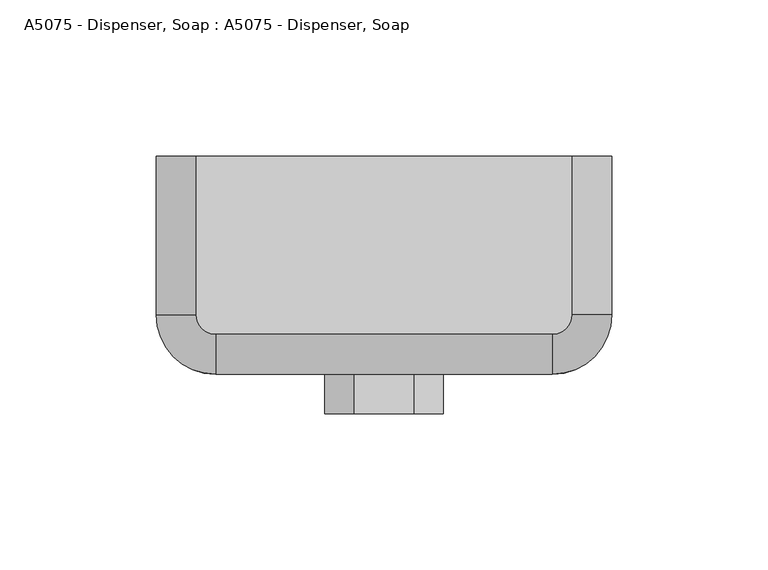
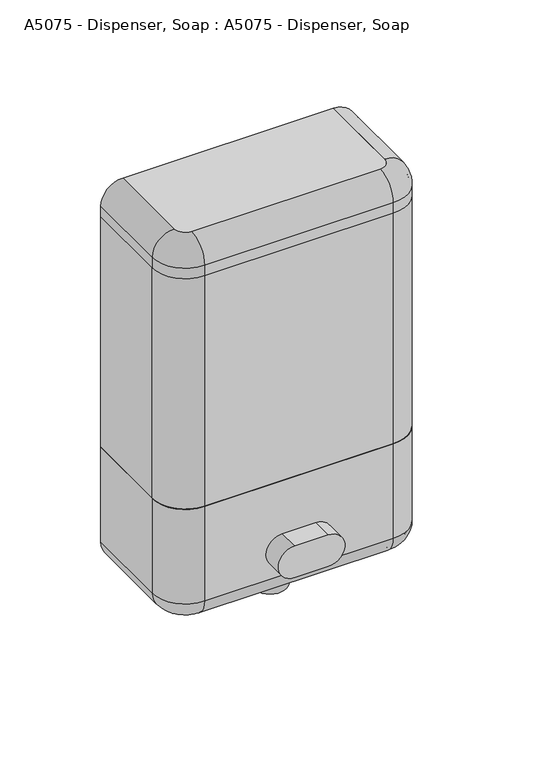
"""IFC4 building model written with IfcOpenShell, lengths in millimetres: proxy geometry, A5075 - Dispenser, Soap : A5075 - Dispenser, Soap."""

from ifc_helpers import new_model, si_unit, point, frame, frame_2d, origin, origin_with_axes, place, context, project, spatial, polyline, circle_curve, ellipse_curve, trimmed, segment, composite_curve, outline, extrude, source, transform, mapped, element, save
from ifc_brep_helpers import plane_surface, cylinder_surface, revolved_surface, advanced_brep


def a5075_dispenser_soap_a5075_dispenser_soap_1799d04c(model_context):
    return source(origin(), model_context, "Body", "SolidModel", [
        advanced_brep(
        [(-73.025, 0.0, 12.7), (-73.025, 0.0, 69.85), (-71.4375, 0.0, 69.85), (-71.4375, 0.0, 12.7), (-60.325, 0.0, 1.5875), (-60.325, 0.0, 0.0), (-73.025, -50.8, 12.7), (-73.025, -50.8, 69.85), (-53.975, -69.85, 69.85), (53.975, -69.85, 69.85), (73.025, -50.8, 69.85), (73.025, 0.0, 69.85), (71.4375, 0.0, 69.85), (71.4375, -50.8, 69.85), (53.975, -68.2625, 69.85), (-53.975, -68.2625, 69.85), (-71.4375, -50.8, 69.85), (-71.4375, -50.8, 12.7), (-60.325, -50.8, 1.5875), (-60.325, -50.8, 0.0), (-53.975, -69.85, 12.7), (-53.975, -68.2625, 12.7), (-53.975, -57.15, 1.5875), (-53.975, -57.15, 0.0), (53.975, -69.85, 12.7), (53.975, -68.2625, 12.7), (53.975, -57.15, 1.5875), (53.975, -57.15, 0.0), (73.025, -50.8, 12.7), (71.4375, -50.8, 12.7), (60.325, -50.8, 1.5875), (60.325, -50.8, 0.0), (73.025, 0.0, 12.7), (60.325, 0.0, 0.0), (60.325, 0.0, 1.5875), (71.4375, 0.0, 12.7)],
        [
            (0, 1),
            (1, 2),
            (2, 3),
            (3, 4, circle_curve(frame((-60.325, 0.0, 12.7), z_axis=(0.0, -1.0, 0.0), x_axis=(1.0, 0.0, 0.0)), 11.1125)),
            (4, 5),
            (5, 0, circle_curve(frame((-60.325, 0.0, 12.7), z_axis=(0.0, 1.0, 0.0), x_axis=(1.0, 0.0, 0.0)), 12.7)),
            (0, 6),
            (6, 7),
            (7, 1),
            (7, 8, circle_curve(frame((-53.975, -50.8, 69.85), z_axis=(0.0, 0.0, 1.0), x_axis=(-1.0, 0.0, 0.0)), 19.05)),
            (8, 9),
            (9, 10, circle_curve(frame((53.975, -50.8, 69.85), z_axis=(0.0, 0.0, 1.0), x_axis=(0.0, -1.0, 0.0)), 19.05)),
            (10, 11),
            (11, 12),
            (12, 13),
            (13, 14, circle_curve(frame((53.975, -50.8, 69.85), z_axis=(0.0, 0.0, -1.0), x_axis=(0.0, -1.0, 0.0)), 17.4625)),
            (14, 15),
            (15, 16, circle_curve(frame((-53.975, -50.8, 69.85), z_axis=(0.0, 0.0, -1.0), x_axis=(-1.0, 0.0, 0.0)), 17.4625)),
            (16, 2),
            (16, 17),
            (17, 3),
            (17, 18, circle_curve(frame((-60.325, -50.8, 12.7), z_axis=(0.0, -1.0, 0.0), x_axis=(1.0, 0.0, 0.0)), 11.1125)),
            (18, 4),
            (18, 19),
            (19, 5),
            (19, 6, circle_curve(frame((-60.325, -50.8, 12.7), z_axis=(0.0, 1.0, 0.0), x_axis=(1.0, 0.0, 0.0)), 12.7)),
            (6, 20, circle_curve(frame((-53.975, -50.8, 12.7), z_axis=(0.0, 0.0, 1.0), x_axis=(-1.0, 0.0, 0.0)), 19.05)),
            (20, 8),
            (21, 17, circle_curve(frame((-53.975, -50.8, 12.7), z_axis=(0.0, 0.0, -1.0), x_axis=(-1.0, 0.0, 0.0)), 17.4625)),
            (15, 21),
            (22, 18, circle_curve(frame((-53.975, -50.8, 1.5875), z_axis=(0.0, 0.0, -1.0), x_axis=(-1.0, 0.0, 0.0)), 6.35)),
            (21, 22, circle_curve(frame((-53.975, -57.15, 12.7), z_axis=(1.0, 0.0, 0.0), x_axis=(0.0, 1.0, 0.0)), 11.1125)),
            (23, 19, circle_curve(frame((-53.975, -50.8, 0.0), z_axis=(0.0, 0.0, -1.0), x_axis=(-1.0, 0.0, 0.0)), 6.35)),
            (22, 23),
            (23, 20, circle_curve(frame((-53.975, -57.15, 12.7), z_axis=(-1.0, 0.0, 0.0), x_axis=(0.0, 1.0, 0.0)), 12.7)),
            (20, 24),
            (24, 9),
            (14, 25),
            (25, 21),
            (25, 26, circle_curve(frame((53.975, -57.15, 12.7), z_axis=(1.0, 0.0, 0.0), x_axis=(0.0, 1.0, 0.0)), 11.1125)),
            (26, 22),
            (26, 27),
            (27, 23),
            (27, 24, circle_curve(frame((53.975, -57.15, 12.7), z_axis=(-1.0, 0.0, 0.0), x_axis=(0.0, 1.0, 0.0)), 12.7)),
            (24, 28, circle_curve(frame((53.975, -50.8, 12.7), z_axis=(0.0, 0.0, 1.0), x_axis=(0.0, -1.0, 0.0)), 19.05)),
            (28, 10),
            (29, 25, circle_curve(frame((53.975, -50.8, 12.7), z_axis=(0.0, 0.0, -1.0), x_axis=(0.0, -1.0, 0.0)), 17.4625)),
            (13, 29),
            (30, 26, circle_curve(frame((53.975, -50.8, 1.5875), z_axis=(0.0, 0.0, -1.0), x_axis=(0.0, -1.0, 0.0)), 6.35)),
            (29, 30, circle_curve(frame((60.325, -50.8, 12.7), z_axis=(0.0, 1.0, 0.0), x_axis=(-1.0, 0.0, 0.0)), 11.1125)),
            (31, 27, circle_curve(frame((53.975, -50.8, 0.0), z_axis=(0.0, 0.0, -1.0), x_axis=(0.0, -1.0, 0.0)), 6.35)),
            (30, 31),
            (31, 28, circle_curve(frame((60.325, -50.8, 12.7), z_axis=(0.0, -1.0, 0.0), x_axis=(-1.0, 0.0, 0.0)), 12.7)),
            (32, 33, circle_curve(frame((60.325, 0.0, 12.7), z_axis=(0.0, 1.0, 0.0), x_axis=(-1.0, 0.0, 0.0)), 12.7)),
            (33, 34),
            (34, 35, circle_curve(frame((60.325, 0.0, 12.7), z_axis=(0.0, -1.0, 0.0), x_axis=(-1.0, 0.0, 0.0)), 11.1125)),
            (35, 12),
            (11, 32),
            (28, 32),
            (35, 29),
            (34, 30),
            (33, 31),
        ],
        [
            plane_surface(frame((-73.025, 0.0, 0.0), z_axis=(0.0, 1.0, 0.0), x_axis=(0.0, 0.0, 1.0))),
            plane_surface(frame((-73.025, 0.0, 12.7), z_axis=(-1.0, 0.0, 0.0), x_axis=(0.0, -1.0, 0.0))),
            plane_surface(frame((-73.025, 0.0, 69.85), z_axis=(0.0, 0.0, 1.0), x_axis=(0.0, -1.0, 0.0))),
            plane_surface(frame((-71.4375, 0.0, 69.85), z_axis=(1.0, 0.0, 0.0), x_axis=(0.0, -1.0, 0.0))),
            revolved_surface(polyline([(-49.212500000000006, -50.8, 12.7), (-49.212500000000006, 0.0, 12.7)]), (-60.325, 0.0, 12.7), (0.0, -1.0, 0.0)),
            plane_surface(frame((-60.325, 0.0, 1.5875), z_axis=(1.0, 0.0, 0.0), x_axis=(0.0, -1.0, 0.0))),
            cylinder_surface(frame((-60.325, 0.0, 12.7), z_axis=(0.0, 1.0, 0.0), x_axis=(1.0, 0.0, 0.0)), 12.7),
            cylinder_surface(frame((-53.975, -50.8, 0.0), z_axis=(0.0, 0.0, 1.0), x_axis=(-1.0, 0.0, 0.0)), 19.05),
            revolved_surface(polyline([(-71.4375, -50.8, 69.85), (-71.4375, -50.8, 12.7)]), (-53.975, -50.8, 0.0), (0.0, 0.0, 1.0)),
            revolved_surface(trimmed(ellipse_curve(frame((-60.325, -50.8, 12.7), z_axis=(0.0, -1.0, 0.0), x_axis=(1.0, 0.0, 0.0)), 11.1125, 11.1125), [point((-71.4375, -50.8, 12.7))], [point((-60.325, -50.8, 1.5875))], True, "CARTESIAN"), (-53.975, -50.8, 0.0), (0.0, 0.0, 1.0)),
            revolved_surface(polyline([(-60.325, -50.8, 1.5875), (-60.325, -50.8, 0.0)]), (-53.975, -50.8, 0.0), (0.0, 0.0, 1.0)),
            revolved_surface(trimmed(ellipse_curve(frame((-60.325, -50.8, 12.7), z_axis=(0.0, 1.0, 0.0), x_axis=(1.0, 0.0, 0.0)), 12.7, 12.7), [point((-60.325, -50.8, 0.0))], [point((-73.025, -50.8, 12.7))], True, "CARTESIAN"), (-53.975, -50.8, 0.0), (0.0, 0.0, 1.0)),
            plane_surface(frame((-53.975, -69.85, 12.7), z_axis=(0.0, -1.0, 0.0), x_axis=(1.0, 0.0, 0.0))),
            plane_surface(frame((-53.975, -68.2625, 69.85), z_axis=(0.0, 1.0, 0.0), x_axis=(1.0, 0.0, 0.0))),
            revolved_surface(polyline([(53.975, -46.037499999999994, 12.7), (-53.975, -46.037499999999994, 12.7)]), (-53.975, -57.15, 12.7), (1.0, 0.0, 0.0)),
            plane_surface(frame((-53.975, -57.15, 1.5875), z_axis=(0.0, 1.0, 0.0), x_axis=(1.0, 0.0, 0.0))),
            cylinder_surface(frame((-53.975, -57.15, 12.7), z_axis=(-1.0, 0.0, 0.0), x_axis=(0.0, 1.0, 0.0)), 12.7),
            cylinder_surface(frame((53.975, -50.8, 0.0), z_axis=(0.0, 0.0, 1.0), x_axis=(0.0, -1.0, 0.0)), 19.05),
            revolved_surface(polyline([(53.975, -68.26249999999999, 69.85), (53.975, -68.26249999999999, 12.7)]), (53.975, -50.8, 0.0), (0.0, 0.0, 1.0)),
            revolved_surface(trimmed(ellipse_curve(frame((53.975, -57.15, 12.7), z_axis=(1.0, 0.0, 0.0), x_axis=(0.0, 1.0, 0.0)), 11.1125, 11.1125), [point((53.975, -68.2625, 12.7))], [point((53.975, -57.15, 1.5875))], True, "CARTESIAN"), (53.975, -50.8, 0.0), (0.0, 0.0, 1.0)),
            revolved_surface(polyline([(53.975, -57.15, 1.5875), (53.975, -57.15, 0.0)]), (53.975, -50.8, 0.0), (0.0, 0.0, 1.0)),
            revolved_surface(trimmed(ellipse_curve(frame((53.975, -57.15, 12.7), z_axis=(-1.0, 0.0, 0.0), x_axis=(0.0, 1.0, 0.0)), 12.7, 12.7), [point((53.975, -57.15, 0.0))], [point((53.975, -69.85, 12.7))], True, "CARTESIAN"), (53.975, -50.8, 0.0), (0.0, 0.0, 1.0)),
            plane_surface(frame((73.025, 0.0, 0.0), z_axis=(0.0, 1.0, 0.0), x_axis=(0.0, 0.0, 1.0))),
            plane_surface(frame((73.025, -50.8, 12.7), z_axis=(1.0, 0.0, 0.0), x_axis=(0.0, 1.0, 0.0))),
            plane_surface(frame((71.4375, -50.8, 69.85), z_axis=(-1.0, 0.0, 0.0), x_axis=(0.0, 1.0, 0.0))),
            revolved_surface(polyline([(49.212500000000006, 0.0, 12.7), (49.212500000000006, -50.8, 12.7)]), (60.325, -50.8, 12.7), (0.0, 1.0, 0.0)),
            plane_surface(frame((60.325, -50.8, 1.5875), z_axis=(-1.0, 0.0, 0.0), x_axis=(0.0, 1.0, 0.0))),
            cylinder_surface(frame((60.325, -50.8, 12.7), z_axis=(0.0, -1.0, 0.0), x_axis=(-1.0, 0.0, 0.0)), 12.7),
        ],
        [
            (0, [[1, 2, 3, 4, 5, 6]]),
            (1, [[-1, 7, 8, 9]]),
            (2, [[-2, -9, 10, 11, 12, 13, 14, 15, 16, 17, 18, 19]]),
            (3, [[-3, -19, 20, 21]]),
            (4, [[-4, -21, 22, 23]]),
            (5, [[-5, -23, 24, 25]]),
            (6, [[-6, -25, 26, -7]]),
            (7, [[-10, -8, 27, 28]]),
            (8, [[29, -20, -18, 30]]),
            (9, [[31, -22, -29, 32]]),
            (10, [[33, -24, -31, 34]]),
            (11, [[-27, -26, -33, 35]]),
            (12, [[-28, 36, 37, -11]]),
            (13, [[-30, -17, 38, 39]]),
            (14, [[-32, -39, 40, 41]]),
            (15, [[-34, -41, 42, 43]]),
            (16, [[-35, -43, 44, -36]]),
            (17, [[-12, -37, 45, 46]]),
            (18, [[47, -38, -16, 48]]),
            (19, [[49, -40, -47, 50]]),
            (20, [[51, -42, -49, 52]]),
            (21, [[-45, -44, -51, 53]]),
            (22, [[54, 55, 56, 57, -14, 58]]),
            (23, [[-46, 59, -58, -13]]),
            (24, [[-48, -15, -57, 60]]),
            (25, [[-50, -60, -56, 61]]),
            (26, [[-52, -61, -55, 62]]),
            (27, [[-53, -62, -54, -59]]),
        ],
    ),
        advanced_brep(
        [(-73.025, 0.0, 215.9), (-60.325, 0.0, 228.6), (-60.325, 0.0, 227.0125), (-71.4375, 0.0, 215.9), (-71.4375, 0.0, 209.55), (-73.025, 0.0, 209.55), (-73.025, -50.8, 215.9), (-60.325, -50.8, 228.6), (-60.325, -50.8, 227.0125), (-71.4375, -50.8, 215.9), (-71.4375, -50.8, 209.55), (-53.975, -68.2625, 209.55), (53.975, -68.2625, 209.55), (71.4375, -50.8, 209.55), (71.4375, 0.0, 209.55), (73.025, 0.0, 209.55), (73.025, -50.8, 209.55), (53.975, -69.85, 209.55), (-53.975, -69.85, 209.55), (-73.025, -50.8, 209.55), (-53.975, -57.15, 228.6), (-53.975, -69.85, 215.9), (-53.975, -57.15, 227.0125), (-53.975, -68.2625, 215.9), (53.975, -69.85, 215.9), (53.975, -57.15, 228.6), (53.975, -57.15, 227.0125), (53.975, -68.2625, 215.9), (60.325, -50.8, 228.6), (73.025, -50.8, 215.9), (60.325, -50.8, 227.0125), (71.4375, -50.8, 215.9), (73.025, 0.0, 215.9), (71.4375, 0.0, 215.9), (60.325, 0.0, 227.0125), (60.325, 0.0, 228.6)],
        [
            (0, 1, circle_curve(frame((-60.325, 0.0, 215.9), z_axis=(0.0, 1.0, 0.0), x_axis=(1.0, 0.0, 0.0)), 12.7)),
            (1, 2),
            (2, 3, circle_curve(frame((-60.325, 0.0, 215.9), z_axis=(0.0, -1.0, 0.0), x_axis=(1.0, 0.0, 0.0)), 11.1125)),
            (3, 4),
            (4, 5),
            (5, 0),
            (0, 6),
            (6, 7, circle_curve(frame((-60.325, -50.8, 215.9), z_axis=(0.0, 1.0, 0.0), x_axis=(1.0, 0.0, 0.0)), 12.7)),
            (7, 1),
            (7, 8),
            (8, 2),
            (8, 9, circle_curve(frame((-60.325, -50.8, 215.9), z_axis=(0.0, -1.0, 0.0), x_axis=(1.0, 0.0, 0.0)), 11.1125)),
            (9, 3),
            (9, 10),
            (10, 4),
            (10, 11, circle_curve(frame((-53.975, -50.8, 209.55), z_axis=(0.0, 0.0, 1.0), x_axis=(-1.0, 0.0, 0.0)), 17.4625)),
            (11, 12),
            (12, 13, circle_curve(frame((53.975, -50.8, 209.55), z_axis=(0.0, 0.0, 1.0), x_axis=(0.0, -1.0, 0.0)), 17.4625)),
            (13, 14),
            (14, 15),
            (15, 16),
            (16, 17, circle_curve(frame((53.975, -50.8, 209.55), z_axis=(0.0, 0.0, -1.0), x_axis=(0.0, -1.0, 0.0)), 19.05)),
            (17, 18),
            (18, 19, circle_curve(frame((-53.975, -50.8, 209.55), z_axis=(0.0, 0.0, -1.0), x_axis=(-1.0, 0.0, 0.0)), 19.05)),
            (19, 5),
            (19, 6),
            (20, 7, circle_curve(frame((-53.975, -50.8, 228.6), z_axis=(0.0, 0.0, -1.0), x_axis=(-1.0, 0.0, 0.0)), 6.35)),
            (6, 21, circle_curve(frame((-53.975, -50.8, 215.9), z_axis=(0.0, 0.0, 1.0), x_axis=(-1.0, 0.0, 0.0)), 19.05)),
            (21, 20, circle_curve(frame((-53.975, -57.15, 215.9), z_axis=(-1.0, 0.0, 0.0), x_axis=(0.0, 1.0, 0.0)), 12.7)),
            (22, 8, circle_curve(frame((-53.975, -50.8, 227.0125), z_axis=(0.0, 0.0, -1.0), x_axis=(-1.0, 0.0, 0.0)), 6.35)),
            (20, 22),
            (23, 9, circle_curve(frame((-53.975, -50.8, 215.9), z_axis=(0.0, 0.0, -1.0), x_axis=(-1.0, 0.0, 0.0)), 17.4625)),
            (22, 23, circle_curve(frame((-53.975, -57.15, 215.9), z_axis=(1.0, 0.0, 0.0), x_axis=(0.0, 1.0, 0.0)), 11.1125)),
            (23, 11),
            (18, 21),
            (21, 24),
            (24, 25, circle_curve(frame((53.975, -57.15, 215.9), z_axis=(-1.0, 0.0, 0.0), x_axis=(0.0, 1.0, 0.0)), 12.7)),
            (25, 20),
            (25, 26),
            (26, 22),
            (26, 27, circle_curve(frame((53.975, -57.15, 215.9), z_axis=(1.0, 0.0, 0.0), x_axis=(0.0, 1.0, 0.0)), 11.1125)),
            (27, 23),
            (27, 12),
            (17, 24),
            (28, 25, circle_curve(frame((53.975, -50.8, 228.6), z_axis=(0.0, 0.0, -1.0), x_axis=(0.0, -1.0, 0.0)), 6.35)),
            (24, 29, circle_curve(frame((53.975, -50.8, 215.9), z_axis=(0.0, 0.0, 1.0), x_axis=(0.0, -1.0, 0.0)), 19.05)),
            (29, 28, circle_curve(frame((60.325, -50.8, 215.9), z_axis=(0.0, -1.0, 0.0), x_axis=(-1.0, 0.0, 0.0)), 12.7)),
            (30, 26, circle_curve(frame((53.975, -50.8, 227.0125), z_axis=(0.0, 0.0, -1.0), x_axis=(0.0, -1.0, 0.0)), 6.35)),
            (28, 30),
            (31, 27, circle_curve(frame((53.975, -50.8, 215.9), z_axis=(0.0, 0.0, -1.0), x_axis=(0.0, -1.0, 0.0)), 17.4625)),
            (30, 31, circle_curve(frame((60.325, -50.8, 215.9), z_axis=(0.0, 1.0, 0.0), x_axis=(-1.0, 0.0, 0.0)), 11.1125)),
            (31, 13),
            (16, 29),
            (32, 15),
            (14, 33),
            (33, 34, circle_curve(frame((60.325, 0.0, 215.9), z_axis=(0.0, -1.0, 0.0), x_axis=(-1.0, 0.0, 0.0)), 11.1125)),
            (34, 35),
            (35, 32, circle_curve(frame((60.325, 0.0, 215.9), z_axis=(0.0, 1.0, 0.0), x_axis=(-1.0, 0.0, 0.0)), 12.7)),
            (29, 32),
            (35, 28),
            (34, 30),
            (33, 31),
        ],
        [
            plane_surface(frame((-73.025, 0.0, 228.6), z_axis=(0.0, 1.0, 0.0), x_axis=(0.0, 0.0, 1.0))),
            cylinder_surface(frame((-60.325, 0.0, 215.9), z_axis=(0.0, 1.0, 0.0), x_axis=(1.0, 0.0, 0.0)), 12.7),
            plane_surface(frame((-60.325, 0.0, 228.6), z_axis=(1.0, 0.0, 0.0), x_axis=(0.0, -1.0, 0.0))),
            revolved_surface(polyline([(-49.212500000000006, -50.8, 215.9), (-49.212500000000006, 0.0, 215.9)]), (-60.325, 0.0, 215.9), (0.0, -1.0, 0.0)),
            plane_surface(frame((-71.4375, 0.0, 215.9), z_axis=(1.0, 0.0, 0.0), x_axis=(0.0, -1.0, 0.0))),
            plane_surface(frame((-71.4375, 0.0, 209.55), z_axis=(0.0, 0.0, -1.0), x_axis=(0.0, -1.0, 0.0))),
            plane_surface(frame((-73.025, 0.0, 209.55), z_axis=(-1.0, 0.0, 0.0), x_axis=(0.0, -1.0, 0.0))),
            revolved_surface(trimmed(ellipse_curve(frame((-60.325, -50.8, 215.9), z_axis=(0.0, 1.0, 0.0), x_axis=(1.0, 0.0, 0.0)), 12.7, 12.7), [point((-73.025, -50.8, 215.9))], [point((-60.325, -50.8, 228.6))], True, "CARTESIAN"), (-53.975, -50.8, 228.6), (0.0, 0.0, 1.0)),
            revolved_surface(polyline([(-60.325, -50.8, 228.6), (-60.325, -50.8, 227.0125)]), (-53.975, -50.8, 228.6), (0.0, 0.0, 1.0)),
            revolved_surface(trimmed(ellipse_curve(frame((-60.325, -50.8, 215.9), z_axis=(0.0, -1.0, 0.0), x_axis=(1.0, 0.0, 0.0)), 11.1125, 11.1125), [point((-60.325, -50.8, 227.0125))], [point((-71.4375, -50.8, 215.9))], True, "CARTESIAN"), (-53.975, -50.8, 228.6), (0.0, 0.0, 1.0)),
            revolved_surface(polyline([(-71.4375, -50.8, 215.9), (-71.4375, -50.8, 209.55)]), (-53.975, -50.8, 228.6), (0.0, 0.0, 1.0)),
            cylinder_surface(frame((-53.975, -50.8, 228.6), z_axis=(0.0, 0.0, 1.0), x_axis=(-1.0, 0.0, 0.0)), 19.05),
            cylinder_surface(frame((-53.975, -57.15, 215.9), z_axis=(-1.0, 0.0, 0.0), x_axis=(0.0, 1.0, 0.0)), 12.7),
            plane_surface(frame((-53.975, -57.15, 228.6), z_axis=(0.0, 1.0, 0.0), x_axis=(1.0, 0.0, 0.0))),
            revolved_surface(polyline([(53.975, -46.037499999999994, 215.9), (-53.975, -46.037499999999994, 215.9)]), (-53.975, -57.15, 215.9), (1.0, 0.0, 0.0)),
            plane_surface(frame((-53.975, -68.2625, 215.9), z_axis=(0.0, 1.0, 0.0), x_axis=(1.0, 0.0, 0.0))),
            plane_surface(frame((-53.975, -69.85, 209.55), z_axis=(0.0, -1.0, 0.0), x_axis=(1.0, 0.0, 0.0))),
            revolved_surface(trimmed(ellipse_curve(frame((53.975, -57.15, 215.9), z_axis=(-1.0, 0.0, 0.0), x_axis=(0.0, 1.0, 0.0)), 12.7, 12.7), [point((53.975, -69.85, 215.9))], [point((53.975, -57.15, 228.6))], True, "CARTESIAN"), (53.975, -50.8, 228.6), (0.0, 0.0, 1.0)),
            revolved_surface(polyline([(53.975, -57.15, 228.6), (53.975, -57.15, 227.0125)]), (53.975, -50.8, 228.6), (0.0, 0.0, 1.0)),
            revolved_surface(trimmed(ellipse_curve(frame((53.975, -57.15, 215.9), z_axis=(1.0, 0.0, 0.0), x_axis=(0.0, 1.0, 0.0)), 11.1125, 11.1125), [point((53.975, -57.15, 227.0125))], [point((53.975, -68.2625, 215.9))], True, "CARTESIAN"), (53.975, -50.8, 228.6), (0.0, 0.0, 1.0)),
            revolved_surface(polyline([(53.975, -68.26249999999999, 215.9), (53.975, -68.26249999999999, 209.55)]), (53.975, -50.8, 228.6), (0.0, 0.0, 1.0)),
            cylinder_surface(frame((53.975, -50.8, 228.6), z_axis=(0.0, 0.0, 1.0), x_axis=(0.0, -1.0, 0.0)), 19.05),
            plane_surface(frame((73.025, 0.0, 228.6), z_axis=(0.0, 1.0, 0.0), x_axis=(0.0, 0.0, 1.0))),
            cylinder_surface(frame((60.325, -50.8, 215.9), z_axis=(0.0, -1.0, 0.0), x_axis=(-1.0, 0.0, 0.0)), 12.7),
            plane_surface(frame((60.325, -50.8, 228.6), z_axis=(-1.0, 0.0, 0.0), x_axis=(0.0, 1.0, 0.0))),
            revolved_surface(polyline([(49.212500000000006, 0.0, 215.9), (49.212500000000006, -50.8, 215.9)]), (60.325, -50.8, 215.9), (0.0, 1.0, 0.0)),
            plane_surface(frame((71.4375, -50.8, 215.9), z_axis=(-1.0, 0.0, 0.0), x_axis=(0.0, 1.0, 0.0))),
            plane_surface(frame((73.025, -50.8, 209.55), z_axis=(1.0, 0.0, 0.0), x_axis=(0.0, 1.0, 0.0))),
        ],
        [
            (0, [[1, 2, 3, 4, 5, 6]]),
            (1, [[-1, 7, 8, 9]]),
            (2, [[-2, -9, 10, 11]]),
            (3, [[-3, -11, 12, 13]]),
            (4, [[-4, -13, 14, 15]]),
            (5, [[-5, -15, 16, 17, 18, 19, 20, 21, 22, 23, 24, 25]]),
            (6, [[-6, -25, 26, -7]]),
            (7, [[27, -8, 28, 29]]),
            (8, [[30, -10, -27, 31]]),
            (9, [[32, -12, -30, 33]]),
            (10, [[-16, -14, -32, 34]]),
            (11, [[-28, -26, -24, 35]]),
            (12, [[-29, 36, 37, 38]]),
            (13, [[-31, -38, 39, 40]]),
            (14, [[-33, -40, 41, 42]]),
            (15, [[-34, -42, 43, -17]]),
            (16, [[-35, -23, 44, -36]]),
            (17, [[45, -37, 46, 47]]),
            (18, [[48, -39, -45, 49]]),
            (19, [[50, -41, -48, 51]]),
            (20, [[-18, -43, -50, 52]]),
            (21, [[-46, -44, -22, 53]]),
            (22, [[54, -20, 55, 56, 57, 58]]),
            (23, [[-47, 59, -58, 60]]),
            (24, [[-49, -60, -57, 61]]),
            (25, [[-51, -61, -56, 62]]),
            (26, [[-52, -62, -55, -19]]),
            (27, [[-53, -21, -54, -59]]),
        ],
    ),
        extrude(outline(composite_curve([segment(polyline([(-73.025, -50.8), (-73.025, 0.0), (-71.4375, 0.0), (-71.4375, -50.8)]), True, "CONTINUOUS"), segment(trimmed(circle_curve(frame_2d((-53.975, -50.8)), 17.4625), [point((-71.4375, -50.8))], [point((-53.975, -68.2625))], True, "CARTESIAN"), True, "CONTINUOUS"), segment(polyline([(-53.975, -68.2625), (53.975, -68.2625)]), True, "CONTINUOUS"), segment(trimmed(circle_curve(frame_2d((53.975, -50.8)), 17.4625), [point((53.975, -68.2625))], [point((71.4375, -50.8))], True, "CARTESIAN"), True, "CONTINUOUS"), segment(polyline([(71.4375, -50.8), (71.4375, 0.0), (73.025, 0.0), (73.025, -50.8)]), True, "CONTINUOUS"), segment(trimmed(circle_curve(frame_2d((53.975, -50.8)), 19.05), [point((73.025, -50.8))], [point((53.975, -69.85))], False, "CARTESIAN"), True, "CONTINUOUS"), segment(polyline([(53.975, -69.85), (-53.975, -69.85)]), True, "CONTINUOUS"), segment(trimmed(circle_curve(frame_2d((-53.975, -50.8)), 19.05), [point((-53.975, -69.85))], [point((-73.025, -50.8))], False, "CARTESIAN"), True, "CONTINUOUS")], self_intersect=False)), frame((0.0, 0.0, 69.85), z_axis=(0.0, 0.0, 1.0), x_axis=(1.0, 0.0, 0.0)), (0.0, 0.0, 1.0), 139.7),
        extrude(outline(composite_curve([segment(trimmed(circle_curve(frame_2d((28.575, -9.525)), 9.525), [point((38.1, -9.525))], [point((19.05, -9.525))], False, "CARTESIAN"), True, "CONTINUOUS"), segment(polyline([(19.05, -9.525), (19.05, 9.525)]), True, "CONTINUOUS"), segment(trimmed(circle_curve(frame_2d((28.575, 9.525)), 9.525), [point((19.05, 9.525))], [point((38.1, 9.525))], False, "CARTESIAN"), True, "CONTINUOUS"), segment(polyline([(38.1, 9.525), (38.1, -9.525)]), True, "CONTINUOUS")], self_intersect=False)), frame((0.0, -82.55, 0.0), z_axis=(0.0, 1.0, 0.0), x_axis=(0.0, 0.0, 1.0)), (0.0, 0.0, 1.0), 12.7),
        extrude(outline(composite_curve([segment(polyline([(-60.325, 0.0), (60.325, 0.0), (60.325, -50.8)]), True, "CONTINUOUS"), segment(trimmed(circle_curve(frame_2d((53.975, -50.8)), 6.35), [point((60.325, -50.8))], [point((53.975, -57.15))], False, "CARTESIAN"), True, "CONTINUOUS"), segment(polyline([(53.975, -57.15), (-53.975, -57.15)]), True, "CONTINUOUS"), segment(trimmed(circle_curve(frame_2d((-53.975, -50.8)), 6.35), [point((-53.975, -57.15))], [point((-60.325, -50.8))], False, "CARTESIAN"), True, "CONTINUOUS"), segment(polyline([(-60.325, -50.8), (-60.325, 0.0)]), True, "CONTINUOUS")], self_intersect=False)), frame((0.0, 0.0, 227.0125), z_axis=(0.0, 0.0, 1.0), x_axis=(1.0, 0.0, 0.0)), (0.0, 0.0, 1.0), 1.5875),
        extrude(outline(composite_curve([segment(trimmed(circle_curve(frame_2d((215.9, -60.325)), 12.7), [point((228.6, -60.325))], [point((215.9, -73.025))], False, "CARTESIAN"), True, "CONTINUOUS"), segment(polyline([(215.9, -73.025), (12.7, -73.025)]), True, "CONTINUOUS"), segment(trimmed(circle_curve(frame_2d((12.7, -60.325)), 12.7), [point((12.7, -73.025))], [point((0.0, -60.325))], False, "CARTESIAN"), True, "CONTINUOUS"), segment(polyline([(0.0, -60.325), (0.0, 60.325)]), True, "CONTINUOUS"), segment(trimmed(circle_curve(frame_2d((12.7, 60.325)), 12.7), [point((0.0, 60.325))], [point((12.7, 73.025))], False, "CARTESIAN"), True, "CONTINUOUS"), segment(polyline([(12.7, 73.025), (215.9, 73.025)]), True, "CONTINUOUS"), segment(trimmed(circle_curve(frame_2d((215.9, 60.325)), 12.7), [point((215.9, 73.025))], [point((228.6, 60.325))], False, "CARTESIAN"), True, "CONTINUOUS"), segment(polyline([(228.6, 60.325), (228.6, -60.325)]), True, "CONTINUOUS")], self_intersect=False)), frame((0.0, -6.35, 0.0), z_axis=(0.0, 1.0, 0.0), x_axis=(0.0, 0.0, 1.0)), (0.0, 0.0, 1.0), 6.35),
        extrude(outline(composite_curve([segment(polyline([(53.975, -68.2625), (-53.975, -68.2625)]), True, "CONTINUOUS"), segment(trimmed(circle_curve(frame_2d((-53.975, -50.8)), 17.4625), [point((-53.975, -68.2625))], [point((-71.4375, -50.8))], False, "CARTESIAN"), True, "CONTINUOUS"), segment(polyline([(-71.4375, -50.8), (-71.4375, 0.0), (71.4375, 0.0), (71.4375, -50.8)]), True, "CONTINUOUS"), segment(trimmed(circle_curve(frame_2d((53.975, -50.8)), 17.4625), [point((71.4375, -50.8))], [point((53.975, -68.2625))], False, "CARTESIAN"), True, "CONTINUOUS")], self_intersect=False)), frame((0.0, 0.0, 69.85), z_axis=(0.0, 0.0, 1.0), x_axis=(1.0, 0.0, 0.0)), (0.0, 0.0, 1.0), 101.8530988),
        extrude(outline(composite_curve([segment(trimmed(circle_curve(frame_2d((0.0, -41.275)), 9.525), [point((-9.525, -41.275))], [point((9.525, -41.275))], False, "CARTESIAN"), True, "CONTINUOUS"), segment(trimmed(circle_curve(frame_2d((0.0, -41.275)), 9.525), [point((9.525, -41.275))], [point((-9.525, -41.275))], False, "CARTESIAN"), True, "CONTINUOUS")], self_intersect=False)), frame((0.0, 0.0, -12.7), z_axis=(0.0, 0.0, 1.0), x_axis=(1.0, 0.0, 0.0)), (0.0, 0.0, 1.0), 12.7),
        extrude(outline(composite_curve([segment(polyline([(-60.325, 0.0), (60.325, 0.0), (60.325, -50.8)]), True, "CONTINUOUS"), segment(trimmed(circle_curve(frame_2d((53.975, -50.8)), 6.35), [point((60.325, -50.8))], [point((53.975, -57.15))], False, "CARTESIAN"), True, "CONTINUOUS"), segment(polyline([(53.975, -57.15), (-53.975, -57.15)]), True, "CONTINUOUS"), segment(trimmed(circle_curve(frame_2d((-53.975, -50.8)), 6.35), [point((-53.975, -57.15))], [point((-60.325, -50.8))], False, "CARTESIAN"), True, "CONTINUOUS"), segment(polyline([(-60.325, -50.8), (-60.325, 0.0)]), True, "CONTINUOUS")], self_intersect=False)), origin_with_axes(), (0.0, 0.0, 1.0), 1.5875),
    ])


if __name__ == "__main__":
    model = new_model("IFC4")
    model_context = context("Model", 3, world=origin())
    ifc_project = project(units=[si_unit("LENGTHUNIT", "METRE", prefix="MILLI")], contexts=[model_context])
    site = spatial("IfcSite", under=ifc_project)
    building = spatial("IfcBuilding", under=site)
    placement = place(None, origin())
    a5075_dispenser_soap_a5075_dispenser_soap_shape = a5075_dispenser_soap_a5075_dispenser_soap_1799d04c(model_context)
    element("IfcBuildingElementProxy", 1, Name="A5075 - Dispenser, Soap : A5075 - Dispenser, Soap", ObjectType="A5075 - Dispenser, Soap : A5075 - Dispenser, Soap", at=placement, inside=building, context=model_context, shape_type="MappedRepresentation", body=[
        mapped(a5075_dispenser_soap_a5075_dispenser_soap_shape, transform((0.0, 0.0, 0.0), x_axis=(1.0, 0.0, 0.0), y_axis=(0.0, 1.0, 0.0), z_axis=(0.0, 0.0, 1.0))),
    ])
    save(model, "model.ifc")
